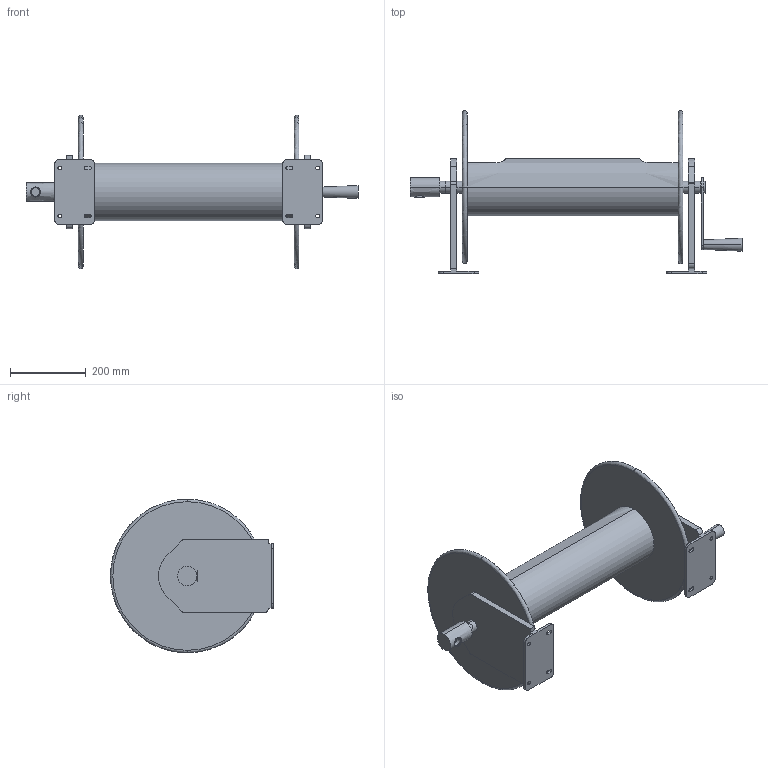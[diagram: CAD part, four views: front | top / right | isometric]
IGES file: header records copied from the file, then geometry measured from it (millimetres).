
Start section:  PTC IGES file: c23022_x_xxx.igs
Global section: file name: c23022_x_xxx.igs; native system: Creo Parametric by PTC Inc.; preprocessor: 2023154; author: Mike.Papaik; organization: Unknown; date: 20250908.130917; units: inch
Bounding box: 879.17 x 431.8 x 406.4 mm (x, y, z)
Surface area: 1395372.4 mm2 (no closed solid volume)
Topology: 0 solids, 0 shells, 164 faces, 962 edges, 1034 vertices
Faces by surface type: revolution 95, bspline 69
